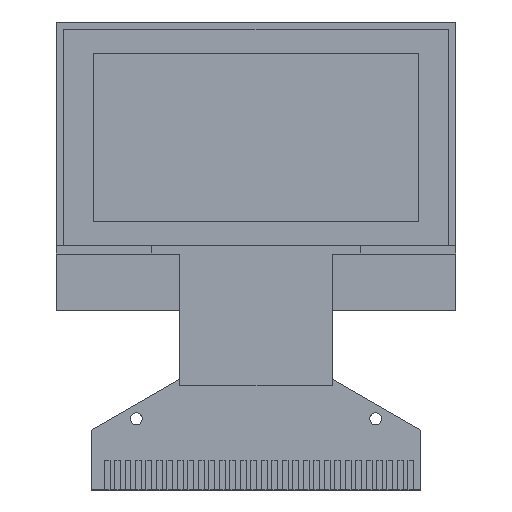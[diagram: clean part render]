
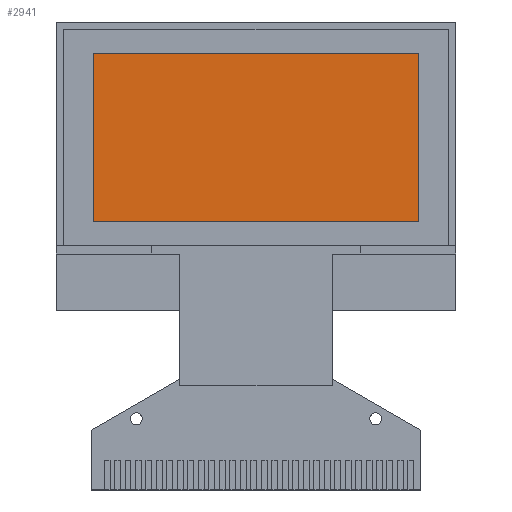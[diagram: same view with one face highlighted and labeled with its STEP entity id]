
A CAD part, top view. The second image highlights one B-rep face of the part: STEP entity #2941.
In plain terms, the highlighted planar face has unit normal (0, 0, 1).
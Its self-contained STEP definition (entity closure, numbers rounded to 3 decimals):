
#90 = LINE ( 'NONE', #8427, #9439 ) ;
#434 = VERTEX_POINT ( 'NONE', #5145 ) ;
#702 = ORIENTED_EDGE ( 'NONE', *, *, #3536, .F. ) ;
#742 = EDGE_CURVE ( 'NONE', #979, #6356, #1284, .T. ) ;
#979 = VERTEX_POINT ( 'NONE', #6114 ) ;
#1159 = LINE ( 'NONE', #1333, #4265 ) ;
#1167 = PLANE ( 'NONE',  #1621 ) ;
#1201 = CARTESIAN_POINT ( 'NONE',  ( 0., 0., 0.5 ) ) ;
#1284 = LINE ( 'NONE', #5025, #7363 ) ;
#1333 = CARTESIAN_POINT ( 'NONE',  ( 10.872, 0., 0.5 ) ) ;
#1621 = AXIS2_PLACEMENT_3D ( 'NONE', #1201, #6425, #1948 ) ;
#1676 = EDGE_CURVE ( 'NONE', #1752, #979, #90, .T. ) ;
#1732 = CARTESIAN_POINT ( 'NONE',  ( 10.872, -5.602, 0.5 ) ) ;
#1752 = VERTEX_POINT ( 'NONE', #1732 ) ;
#1791 = EDGE_LOOP ( 'NONE', ( #8633, #8684, #3325, #702 ) ) ;
#1933 = CARTESIAN_POINT ( 'NONE',  ( 0., 5.602, 0.5 ) ) ;
#1948 = DIRECTION ( 'NONE',  ( 1., 0., 0. ) ) ;
#2089 = DIRECTION ( 'NONE',  ( 0., -1., 0. ) ) ;
#2919 = CARTESIAN_POINT ( 'NONE',  ( -10.872, 5.602, 0.5 ) ) ;
#2941 = ADVANCED_FACE ( 'NONE', ( #4698 ), #1167, .T. ) ;
#3325 = ORIENTED_EDGE ( 'NONE', *, *, #4888, .F. ) ;
#3536 = EDGE_CURVE ( 'NONE', #6356, #434, #7998, .T. ) ;
#4118 = DIRECTION ( 'NONE',  ( 1., 0., 0. ) ) ;
#4265 = VECTOR ( 'NONE', #2089, 1000. ) ;
#4663 = DIRECTION ( 'NONE',  ( -1., 0., 0. ) ) ;
#4698 = FACE_OUTER_BOUND ( 'NONE', #1791, .T. ) ;
#4888 = EDGE_CURVE ( 'NONE', #434, #1752, #1159, .T. ) ;
#5025 = CARTESIAN_POINT ( 'NONE',  ( -10.872, 0., 0.5 ) ) ;
#5089 = DIRECTION ( 'NONE',  ( 0., 1., 0. ) ) ;
#5145 = CARTESIAN_POINT ( 'NONE',  ( 10.872, 5.602, 0.5 ) ) ;
#6114 = CARTESIAN_POINT ( 'NONE',  ( -10.872, -5.602, 0.5 ) ) ;
#6356 = VERTEX_POINT ( 'NONE', #2919 ) ;
#6425 = DIRECTION ( 'NONE',  ( 0., 0., 1. ) ) ;
#7363 = VECTOR ( 'NONE', #5089, 1000. ) ;
#7998 = LINE ( 'NONE', #1933, #9141 ) ;
#8427 = CARTESIAN_POINT ( 'NONE',  ( 0., -5.602, 0.5 ) ) ;
#8633 = ORIENTED_EDGE ( 'NONE', *, *, #742, .F. ) ;
#8684 = ORIENTED_EDGE ( 'NONE', *, *, #1676, .F. ) ;
#9141 = VECTOR ( 'NONE', #4118, 1000. ) ;
#9439 = VECTOR ( 'NONE', #4663, 1000. ) ;
